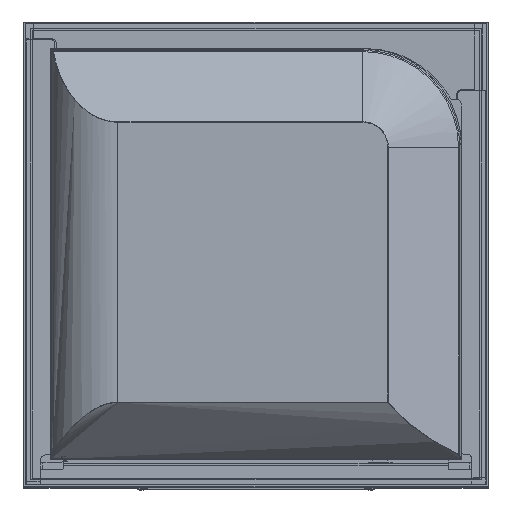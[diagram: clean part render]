
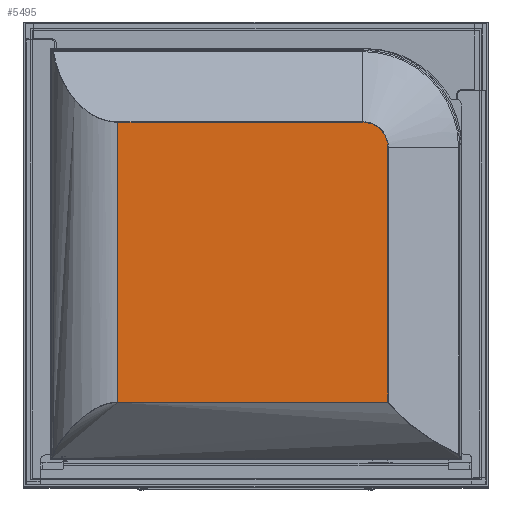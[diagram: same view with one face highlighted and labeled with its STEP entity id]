
A CAD part, top view. The second image highlights one B-rep face of the part: STEP entity #5495.
In plain terms, the highlighted planar face has unit normal (0, 0, 1).
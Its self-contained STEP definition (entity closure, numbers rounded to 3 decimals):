
#5432=CARTESIAN_POINT('',(-194.964,-740.302,2170.));
#5433=DIRECTION('',(0.0,0.0,-1.0));
#5434=DIRECTION('',(-1.0,0.0,0.0));
#5435=AXIS2_PLACEMENT_3D('',#5432,#5433,#5434);
#5436=PLANE('',#5435);
#5437=CARTESIAN_POINT('',(-720.774,-194.32,2170.));
#5438=VERTEX_POINT('',#5437);
#5439=CARTESIAN_POINT('',(-244.001,-194.32,2170.));
#5440=VERTEX_POINT('',#5439);
#5441=CARTESIAN_POINT('',(-720.774,-194.32,2170.));
#5442=DIRECTION('',(1.0,0.0,0.0));
#5443=VECTOR('',#5442,476.773);
#5444=LINE('',#5441,#5443);
#5445=EDGE_CURVE('',#5438,#5440,#5444,.T.);
#5446=ORIENTED_EDGE('',*,*,#5445,.F.);
#5447=CARTESIAN_POINT('',(-720.774,-740.803,2170.));
#5448=VERTEX_POINT('',#5447);
#5449=CARTESIAN_POINT('',(-720.774,-740.803,2170.));
#5450=DIRECTION('',(0.0,1.0,0.0));
#5451=VECTOR('',#5450,546.483);
#5452=LINE('',#5449,#5451);
#5453=EDGE_CURVE('',#5448,#5438,#5452,.T.);
#5454=ORIENTED_EDGE('',*,*,#5453,.F.);
#5455=CARTESIAN_POINT('',(-194.318,-740.803,2170.));
#5456=VERTEX_POINT('',#5455);
#5457=CARTESIAN_POINT('',(-720.774,-740.803,2170.));
#5458=DIRECTION('',(1.0,0.0,0.0));
#5459=VECTOR('',#5458,526.455);
#5460=LINE('',#5457,#5459);
#5461=EDGE_CURVE('',#5448,#5456,#5460,.T.);
#5462=ORIENTED_EDGE('',*,*,#5461,.T.);
#5463=CARTESIAN_POINT('',(-194.318,-244.002,2170.));
#5464=VERTEX_POINT('',#5463);
#5465=CARTESIAN_POINT('',(-194.318,-244.002,2170.));
#5466=DIRECTION('',(0.0,-1.0,0.0));
#5467=VECTOR('',#5466,496.801);
#5468=LINE('',#5465,#5467);
#5469=EDGE_CURVE('',#5464,#5456,#5468,.T.);
#5470=ORIENTED_EDGE('',*,*,#5469,.F.);
#5471=CARTESIAN_POINT('',(-244.001,-194.32,2170.));
#5472=CARTESIAN_POINT('',(-242.888,-194.32,2170.));
#5473=CARTESIAN_POINT('',(-239.828,-194.423,2170.));
#5474=CARTESIAN_POINT('',(-234.557,-195.091,2170.));
#5475=CARTESIAN_POINT('',(-228.831,-196.568,2170.));
#5476=CARTESIAN_POINT('',(-223.551,-198.627,2170.));
#5477=CARTESIAN_POINT('',(-218.989,-200.973,2170.));
#5478=CARTESIAN_POINT('',(-214.758,-203.734,2170.));
#5479=CARTESIAN_POINT('',(-210.826,-206.906,2170.));
#5480=CARTESIAN_POINT('',(-207.233,-210.458,2170.));
#5481=CARTESIAN_POINT('',(-204.025,-214.361,2170.));
#5482=CARTESIAN_POINT('',(-201.225,-218.567,2170.));
#5483=CARTESIAN_POINT('',(-198.863,-223.034,2170.));
#5484=CARTESIAN_POINT('',(-196.945,-227.792,2170.));
#5485=CARTESIAN_POINT('',(-195.547,-232.647,2170.));
#5486=CARTESIAN_POINT('',(-194.717,-237.226,2170.));
#5487=CARTESIAN_POINT('',(-194.374,-241.,2170.));
#5488=CARTESIAN_POINT('',(-194.318,-243.157,2170.));
#5489=CARTESIAN_POINT('',(-194.318,-244.002,2170.));
#5490=B_SPLINE_CURVE_WITH_KNOTS('',3,(#5471,#5472,#5473,#5474,#5475,#5476,#5477,#5478,#5479,#5480,#5481,#5482,#5483,#5484,#5485,#5486,#5487,#5488,#5489),.UNSPECIFIED.,.F.,.U.,(4,1,1,1,1,1,1,1,1,1,1,1,1,1,1,1,4),(0.0,3.338,9.179,15.913,21.036,26.159,31.282,36.173,41.296,46.42,51.311,56.435,61.558,66.681,71.571,75.504,78.04),.UNSPECIFIED.);
#5491=EDGE_CURVE('',#5440,#5464,#5490,.T.);
#5492=ORIENTED_EDGE('',*,*,#5491,.F.);
#5493=EDGE_LOOP('',(#5446,#5454,#5462,#5470,#5492));
#5494=FACE_OUTER_BOUND('',#5493,.T.);
#5495=ADVANCED_FACE('',(#5494),#5436,.F.);
